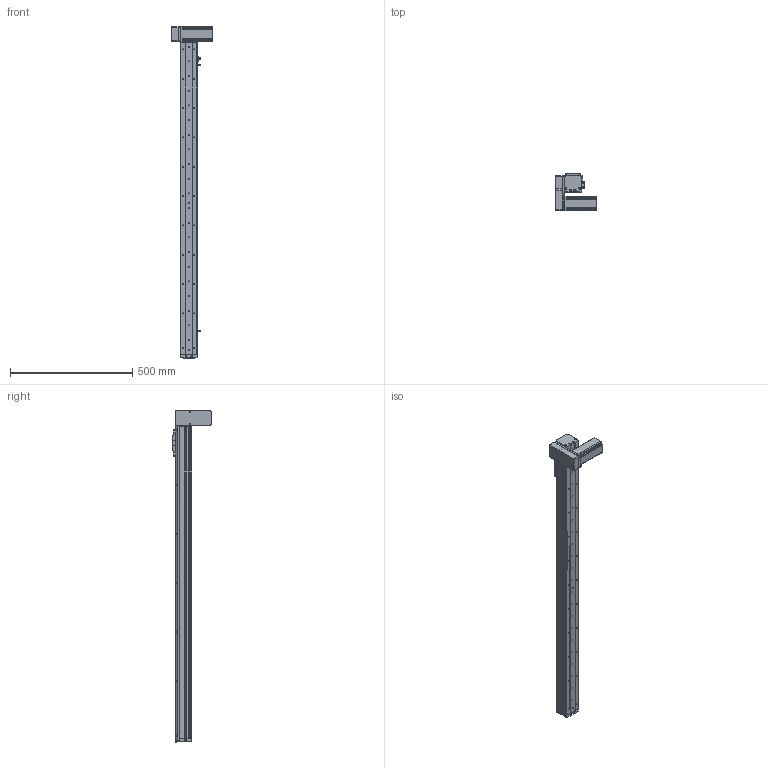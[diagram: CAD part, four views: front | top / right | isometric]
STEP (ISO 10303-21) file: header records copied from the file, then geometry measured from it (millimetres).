
FILE_DESCRIPTION (( 'STEP AP214' ), '1' );
FILE_NAME ('KSD68BS-S1100-MRD-CR.STEP', '2019-08-28T02:33:32', ( '微软用户' ), ( '微软中国' ), 'SwSTEP 2.0', 'SolidWorks 2014', '' );
FILE_SCHEMA (( 'AUTOMOTIVE_DESIGN' ));
Length unit declared in the file: millimetre
Products named in the file (14): KSD68BS-S1100-MRD-CR; KSD68BS 1100行程盖板全封闭; 68宽单导轨全封闭丝杆传动安装板1防护罩; KSD68BS 1100行程侧板全封闭; 68宽单导轨全封闭同步带端板; 68单导轨全封闭同步带电机座右; 68遵裔啣揤啣1; 68单导轨全封闭同步带安装板; 悵誘欶奻狟殏; 68宽马达安装板连板上折同步带; 感应片68宽全封闭; U倰嫖萇EEㄜSX672; 台达ECMA－C20604AS伺服电机（400W); KSD68BS 1100行程底板全封闭
Assembly tree (16 placements, depth 2):
  KSD68BS-S1100-MRD-CR
    KSD68BS 1100行程底板全封闭
    台达ECMA－C20604AS伺服电机（400W)
    U倰嫖萇EEㄜSX672  x3
    感应片68宽全封闭
    68宽马达安装板连板上折同步带
    悵誘欶奻狟殏
    68单导轨全封闭同步带安装板
    68单导轨全封闭同步带电机座右
    68宽单导轨全封闭同步带端板
    KSD68BS 1100行程侧板全封闭  x2
    68宽单导轨全封闭丝杆传动安装板1防护罩
    KSD68BS 1100行程盖板全封闭
    68遵裔啣揤啣1
Bounding box: 167.2 x 155.5 x 1358.1 mm (x, y, z)
Volume: 2669627.9 mm3; surface area: 1034290.7 mm2
Topology: 17 solids, 17 shells, 1525 faces, 4360 edges, 2785 vertices
Faces by surface type: cylinder 733, plane 624, cone 168
Entity records: 49170 total; most frequent: CARTESIAN_POINT 8438, DIRECTION 7357, ORIENTED_EDGE 7034, EDGE_CURVE 3517, AXIS2_PLACEMENT_3D 2662, VERTEX_POINT 2307, VECTOR 2033, LINE 2033
